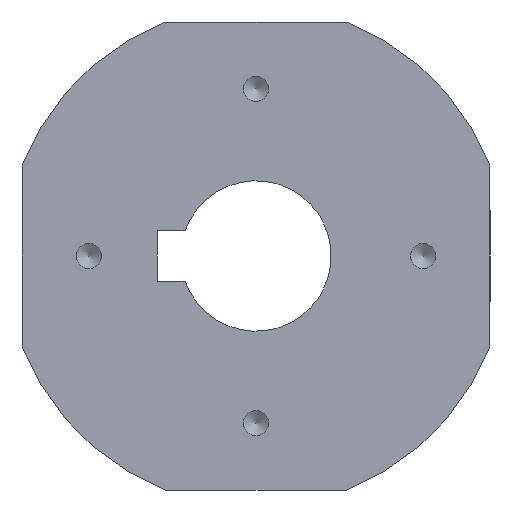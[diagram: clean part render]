
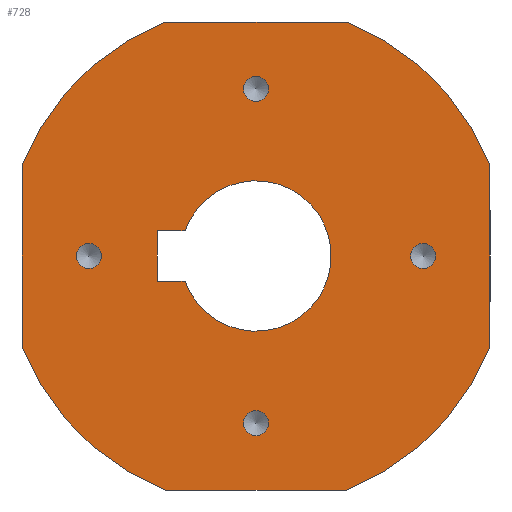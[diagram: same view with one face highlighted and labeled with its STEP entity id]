
A CAD part, left-side view. The second image highlights one B-rep face of the part: STEP entity #728.
In plain terms, the highlighted planar face has unit normal (-1, 0, 0).
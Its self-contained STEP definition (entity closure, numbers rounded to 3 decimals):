
#28=FACE_BOUND('',#143,.T.);
#29=FACE_BOUND('',#144,.T.);
#30=FACE_BOUND('',#145,.T.);
#31=FACE_BOUND('',#146,.T.);
#32=FACE_BOUND('',#147,.T.);
#50=PLANE('',#822);
#100=FACE_OUTER_BOUND('',#142,.T.);
#142=EDGE_LOOP('',(#602,#603,#604,#605,#606,#607,#608,#609));
#143=EDGE_LOOP('',(#610,#611));
#144=EDGE_LOOP('',(#612,#613));
#145=EDGE_LOOP('',(#614,#615));
#146=EDGE_LOOP('',(#616,#617));
#147=EDGE_LOOP('',(#618,#619,#620,#621));
#190=LINE('',#1349,#235);
#194=LINE('',#1358,#239);
#197=LINE('',#1362,#242);
#198=LINE('',#1368,#243);
#199=LINE('',#1372,#244);
#200=LINE('',#1376,#245);
#201=LINE('',#1379,#246);
#235=VECTOR('',#985,10.);
#239=VECTOR('',#991,10.);
#242=VECTOR('',#996,10.);
#243=VECTOR('',#1001,10.);
#244=VECTOR('',#1004,10.);
#245=VECTOR('',#1007,10.);
#246=VECTOR('',#1010,10.);
#264=CIRCLE('',#767,1.5);
#265=CIRCLE('',#768,1.5);
#268=CIRCLE('',#773,1.5);
#269=CIRCLE('',#774,1.5);
#272=CIRCLE('',#779,1.5);
#273=CIRCLE('',#780,1.5);
#291=CIRCLE('',#809,1.5);
#292=CIRCLE('',#810,1.5);
#298=CIRCLE('',#823,30.);
#299=CIRCLE('',#824,30.);
#300=CIRCLE('',#825,30.);
#301=CIRCLE('',#826,30.);
#302=CIRCLE('',#827,9.);
#315=VERTEX_POINT('',#1083);
#316=VERTEX_POINT('',#1084);
#320=VERTEX_POINT('',#1096);
#321=VERTEX_POINT('',#1097);
#325=VERTEX_POINT('',#1109);
#326=VERTEX_POINT('',#1110);
#352=VERTEX_POINT('',#1284);
#353=VERTEX_POINT('',#1285);
#363=VERTEX_POINT('',#1346);
#364=VERTEX_POINT('',#1348);
#367=VERTEX_POINT('',#1355);
#368=VERTEX_POINT('',#1357);
#369=VERTEX_POINT('',#1364);
#370=VERTEX_POINT('',#1365);
#371=VERTEX_POINT('',#1367);
#372=VERTEX_POINT('',#1369);
#373=VERTEX_POINT('',#1371);
#374=VERTEX_POINT('',#1373);
#375=VERTEX_POINT('',#1375);
#376=VERTEX_POINT('',#1377);
#392=EDGE_CURVE('',#315,#316,#264,.T.);
#393=EDGE_CURVE('',#316,#315,#265,.T.);
#398=EDGE_CURVE('',#320,#321,#268,.T.);
#399=EDGE_CURVE('',#321,#320,#269,.T.);
#404=EDGE_CURVE('',#325,#326,#272,.T.);
#405=EDGE_CURVE('',#326,#325,#273,.T.);
#438=EDGE_CURVE('',#352,#353,#291,.T.);
#439=EDGE_CURVE('',#353,#352,#292,.T.);
#452=EDGE_CURVE('',#364,#363,#190,.T.);
#456=EDGE_CURVE('',#368,#367,#194,.T.);
#459=EDGE_CURVE('',#363,#368,#197,.T.);
#460=EDGE_CURVE('',#369,#370,#298,.T.);
#461=EDGE_CURVE('',#371,#370,#198,.T.);
#462=EDGE_CURVE('',#371,#372,#299,.T.);
#463=EDGE_CURVE('',#373,#372,#199,.T.);
#464=EDGE_CURVE('',#373,#374,#300,.T.);
#465=EDGE_CURVE('',#375,#374,#200,.T.);
#466=EDGE_CURVE('',#375,#376,#301,.T.);
#467=EDGE_CURVE('',#369,#376,#201,.T.);
#468=EDGE_CURVE('',#367,#364,#302,.T.);
#602=ORIENTED_EDGE('',*,*,#460,.T.);
#603=ORIENTED_EDGE('',*,*,#461,.F.);
#604=ORIENTED_EDGE('',*,*,#462,.T.);
#605=ORIENTED_EDGE('',*,*,#463,.F.);
#606=ORIENTED_EDGE('',*,*,#464,.T.);
#607=ORIENTED_EDGE('',*,*,#465,.F.);
#608=ORIENTED_EDGE('',*,*,#466,.T.);
#609=ORIENTED_EDGE('',*,*,#467,.F.);
#610=ORIENTED_EDGE('',*,*,#392,.T.);
#611=ORIENTED_EDGE('',*,*,#393,.T.);
#612=ORIENTED_EDGE('',*,*,#398,.T.);
#613=ORIENTED_EDGE('',*,*,#399,.T.);
#614=ORIENTED_EDGE('',*,*,#404,.T.);
#615=ORIENTED_EDGE('',*,*,#405,.T.);
#616=ORIENTED_EDGE('',*,*,#438,.T.);
#617=ORIENTED_EDGE('',*,*,#439,.T.);
#618=ORIENTED_EDGE('',*,*,#452,.T.);
#619=ORIENTED_EDGE('',*,*,#459,.T.);
#620=ORIENTED_EDGE('',*,*,#456,.T.);
#621=ORIENTED_EDGE('',*,*,#468,.T.);
#728=ADVANCED_FACE('',(#100,#28,#29,#30,#31,#32),#50,.T.);
#767=AXIS2_PLACEMENT_3D('',#1085,#862,#863);
#768=AXIS2_PLACEMENT_3D('',#1086,#864,#865);
#773=AXIS2_PLACEMENT_3D('',#1098,#876,#877);
#774=AXIS2_PLACEMENT_3D('',#1099,#878,#879);
#779=AXIS2_PLACEMENT_3D('',#1111,#890,#891);
#780=AXIS2_PLACEMENT_3D('',#1112,#892,#893);
#809=AXIS2_PLACEMENT_3D('',#1286,#958,#959);
#810=AXIS2_PLACEMENT_3D('',#1287,#960,#961);
#822=AXIS2_PLACEMENT_3D('',#1363,#997,#998);
#823=AXIS2_PLACEMENT_3D('',#1366,#999,#1000);
#824=AXIS2_PLACEMENT_3D('',#1370,#1002,#1003);
#825=AXIS2_PLACEMENT_3D('',#1374,#1005,#1006);
#826=AXIS2_PLACEMENT_3D('',#1378,#1008,#1009);
#827=AXIS2_PLACEMENT_3D('',#1380,#1011,#1012);
#862=DIRECTION('center_axis',(1.,0.,0.));
#863=DIRECTION('ref_axis',(0.,-1.,0.));
#864=DIRECTION('center_axis',(1.,0.,0.));
#865=DIRECTION('ref_axis',(0.,-1.,0.));
#876=DIRECTION('center_axis',(1.,0.,0.));
#877=DIRECTION('ref_axis',(0.,0.,-1.));
#878=DIRECTION('center_axis',(1.,0.,0.));
#879=DIRECTION('ref_axis',(0.,0.,-1.));
#890=DIRECTION('center_axis',(1.,0.,0.));
#891=DIRECTION('ref_axis',(0.,1.,0.));
#892=DIRECTION('center_axis',(1.,0.,0.));
#893=DIRECTION('ref_axis',(0.,1.,0.));
#958=DIRECTION('center_axis',(1.,0.,0.));
#959=DIRECTION('ref_axis',(0.,0.,1.));
#960=DIRECTION('center_axis',(1.,0.,0.));
#961=DIRECTION('ref_axis',(0.,0.,1.));
#985=DIRECTION('',(0.,1.,0.));
#991=DIRECTION('',(0.,-1.,0.));
#996=DIRECTION('',(0.,0.,1.));
#997=DIRECTION('center_axis',(-1.,0.,0.));
#998=DIRECTION('ref_axis',(0.,-1.,0.));
#999=DIRECTION('center_axis',(-1.,0.,0.));
#1000=DIRECTION('ref_axis',(0.,0.,1.));
#1001=DIRECTION('',(0.,-1.,0.));
#1002=DIRECTION('center_axis',(-1.,0.,0.));
#1003=DIRECTION('ref_axis',(0.,0.,1.));
#1004=DIRECTION('',(0.,0.,1.));
#1005=DIRECTION('center_axis',(-1.,0.,0.));
#1006=DIRECTION('ref_axis',(0.,0.,1.));
#1007=DIRECTION('',(0.,1.,0.));
#1008=DIRECTION('center_axis',(-1.,0.,0.));
#1009=DIRECTION('ref_axis',(0.,0.,1.));
#1010=DIRECTION('',(0.,0.,-1.));
#1011=DIRECTION('center_axis',(1.,0.,0.));
#1012=DIRECTION('ref_axis',(0.,0.,1.));
#1083=CARTESIAN_POINT('',(0.,26.5,-20.));
#1084=CARTESIAN_POINT('',(0.,29.5,-20.));
#1085=CARTESIAN_POINT('Origin',(0.,28.,-20.));
#1086=CARTESIAN_POINT('Origin',(0.,28.,-20.));
#1096=CARTESIAN_POINT('',(0.,48.,-1.5));
#1097=CARTESIAN_POINT('',(0.,48.,1.5));
#1098=CARTESIAN_POINT('Origin',(0.,48.,0.));
#1099=CARTESIAN_POINT('Origin',(0.,48.,0.));
#1109=CARTESIAN_POINT('',(0.,29.5,20.));
#1110=CARTESIAN_POINT('',(0.,26.5,20.));
#1111=CARTESIAN_POINT('Origin',(0.,28.,20.));
#1112=CARTESIAN_POINT('Origin',(0.,28.,20.));
#1284=CARTESIAN_POINT('',(0.,8.,1.5));
#1285=CARTESIAN_POINT('',(0.,8.,-1.5));
#1286=CARTESIAN_POINT('Origin',(0.,8.,0.));
#1287=CARTESIAN_POINT('Origin',(0.,8.,0.));
#1346=CARTESIAN_POINT('',(0.,39.8,-3.));
#1348=CARTESIAN_POINT('',(0.,36.485,-3.));
#1349=CARTESIAN_POINT('',(0.,44.712,-3.));
#1355=CARTESIAN_POINT('',(0.,36.485,3.));
#1357=CARTESIAN_POINT('',(0.,39.8,3.));
#1358=CARTESIAN_POINT('',(0.,47.9,3.));
#1362=CARTESIAN_POINT('',(0.,39.8,-1.5));
#1363=CARTESIAN_POINT('Origin',(0.,56.,0.));
#1364=CARTESIAN_POINT('',(0.,0.,10.77));
#1365=CARTESIAN_POINT('',(0.,17.23,28.));
#1366=CARTESIAN_POINT('Origin',(0.,28.,0.));
#1367=CARTESIAN_POINT('',(0.,38.77,28.));
#1368=CARTESIAN_POINT('',(0.,56.,28.));
#1369=CARTESIAN_POINT('',(0.,56.,10.77));
#1370=CARTESIAN_POINT('Origin',(0.,28.,0.));
#1371=CARTESIAN_POINT('',(0.,56.,-10.77));
#1372=CARTESIAN_POINT('',(0.,56.,0.));
#1373=CARTESIAN_POINT('',(0.,38.77,-28.));
#1374=CARTESIAN_POINT('Origin',(0.,28.,0.));
#1375=CARTESIAN_POINT('',(0.,17.23,-28.));
#1376=CARTESIAN_POINT('',(0.,56.,-28.));
#1377=CARTESIAN_POINT('',(0.,0.,-10.77));
#1378=CARTESIAN_POINT('Origin',(0.,28.,0.));
#1379=CARTESIAN_POINT('',(0.,0.,0.));
#1380=CARTESIAN_POINT('Origin',(0.,28.,0.));
